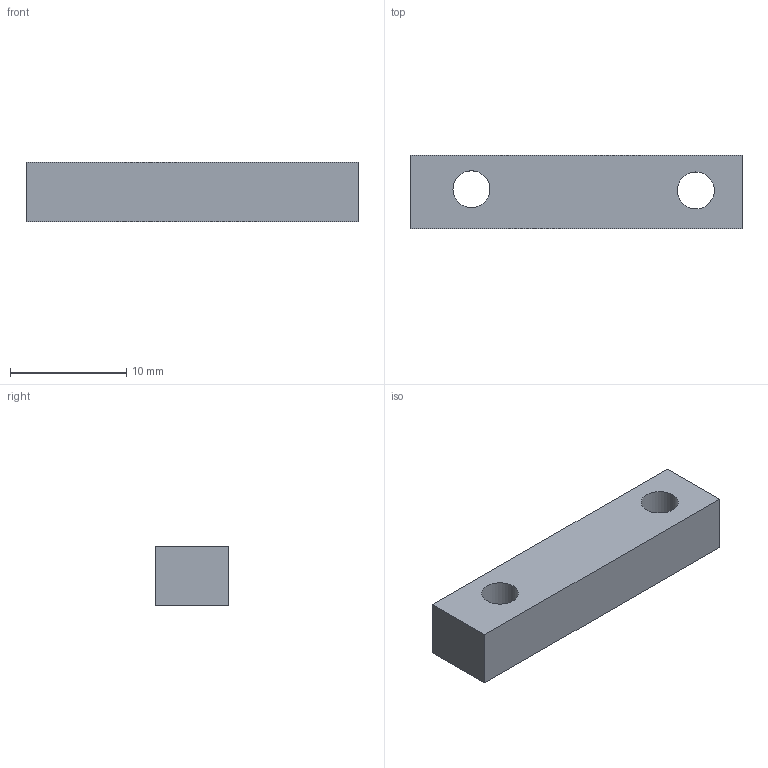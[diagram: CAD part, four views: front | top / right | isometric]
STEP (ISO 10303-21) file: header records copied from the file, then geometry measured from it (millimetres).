
FILE_DESCRIPTION(/* description */ (''),/* implementation_level */ '2;1');
FILE_NAME(/* name */ 'LEDholder.step',/* time_stamp */ '2026-06-10T02:32:08-04:00',/* author */ (''),/* organization */ (''),/* preprocessor_version */ 'ST-DEVELOPER v20.1',/* originating_system */ 'Autodesk Translation Framework v15.8.0.0',/* authorisation */ '');
FILE_SCHEMA (('AUTOMOTIVE_DESIGN { 1 0 10303 214 3 1 1 }'));
Length unit declared in the file: inch
Products named in the file (1): 2026-06-10-02-32-08-268
Bounding box: 28.57 x 6.35 x 5.08 mm (x, y, z)
Volume: 841.3 mm3; surface area: 787.4 mm2
Topology: 1 solids, 1 shells, 8 faces, 18 edges, 12 vertices
Faces by surface type: plane 6, cylinder 2
Full cylindrical faces by diameter (mm): 3.175 x2
Entity records: 276 total; most frequent: DIRECTION 40, CARTESIAN_POINT 39, ORIENTED_EDGE 36, EDGE_CURVE 18, LINE 14, VECTOR 14, AXIS2_PLACEMENT_3D 13, EDGE_LOOP 12
